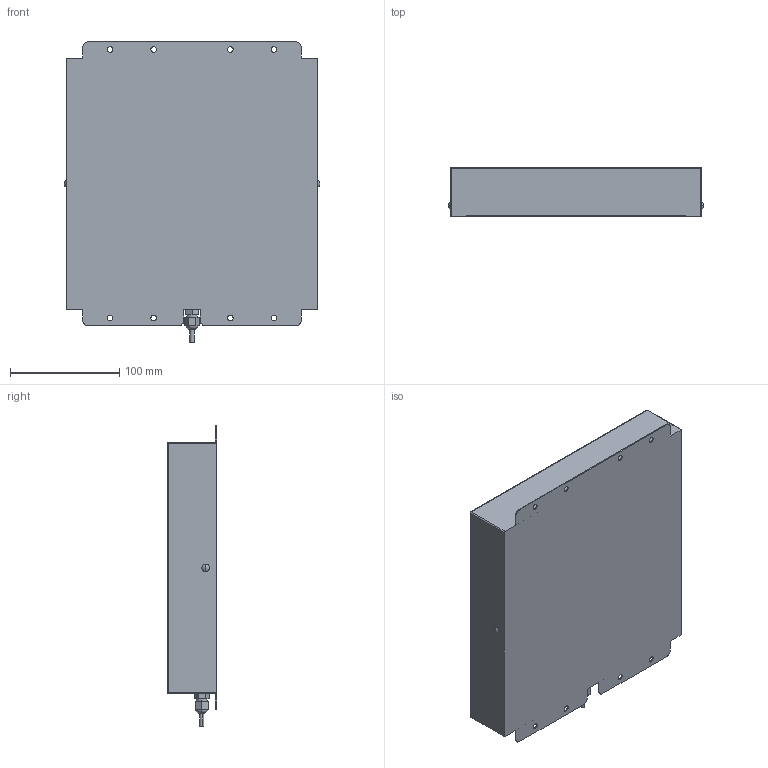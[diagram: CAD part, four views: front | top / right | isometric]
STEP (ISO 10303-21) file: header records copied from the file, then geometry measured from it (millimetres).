
FILE_DESCRIPTION (( 'STEP AP203' ), '1' );
FILE_NAME ('HDSBPA-200x200_-24.STEP', '2023-04-18T04:43:27', ( '' ), ( '' ), 'SwSTEP 2.0', 'SolidWorks 2022', '' );
FILE_SCHEMA (( 'CONFIG_CONTROL_DESIGN' ));
Length unit declared in the file: millimetre
Products named in the file (1): HDSBPA-200x200_-24
Bounding box: 233.8 x 45 x 275 mm (x, y, z)
Volume: 2347914.7 mm3; surface area: 160307.8 mm2
Topology: 1 solids, 1 shells, 104 faces, 262 edges, 160 vertices
Faces by surface type: plane 52, cylinder 42, sphere 8, torus 2
Entity records: 3147 total; most frequent: DIRECTION 564, CARTESIAN_POINT 515, ORIENTED_EDGE 504, EDGE_CURVE 252, AXIS2_PLACEMENT_3D 207, VERTEX_POINT 158, VECTOR 150, LINE 150
